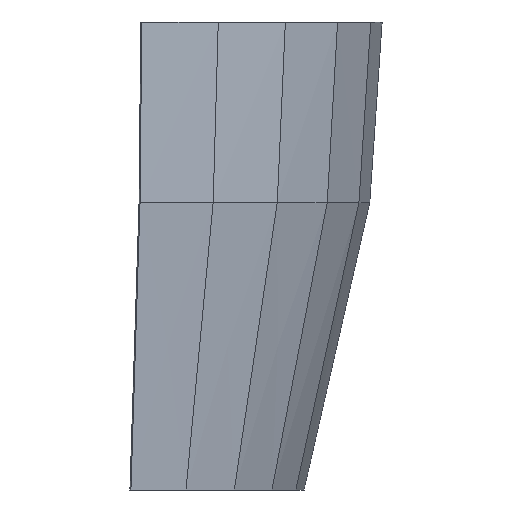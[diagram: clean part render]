
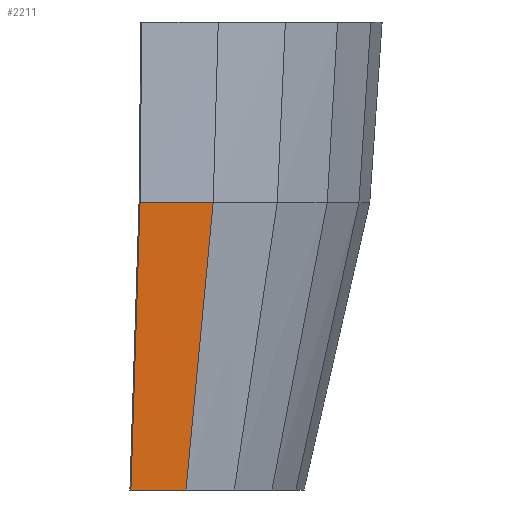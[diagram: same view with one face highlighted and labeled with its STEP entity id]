
A CAD part, left-side view. The second image highlights one B-rep face of the part: STEP entity #2211.
In plain terms, the highlighted free-form (B-spline) face has degree [1, 1] with [2, 2] control points.
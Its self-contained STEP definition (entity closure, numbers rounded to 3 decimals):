
#715 = VERTEX_POINT('',#716);
#716 = CARTESIAN_POINT('',(-89.764,-53.704,-265.));
#729 = B_SPLINE_SURFACE_WITH_KNOTS('',1,1,(
    (#730,#731)
    ,(#732,#733
    )),.UNSPECIFIED.,.F.,.F.,.F.,(2,2),(2,2),(0.,38.795),(0.,1.
    ),.PIECEWISE_BEZIER_KNOTS.);
#730 = CARTESIAN_POINT('',(-88.853,-56.182,-177.));
#731 = CARTESIAN_POINT('',(-89.764,-53.704,-265.));
#732 = CARTESIAN_POINT('',(-99.676,-18.928,-177.));
#733 = CARTESIAN_POINT('',(-100.667,-18.093,-265.));
#754 = B_SPLINE_SURFACE_WITH_KNOTS('',1,1,(
    (#755,#756)
    ,(#757,#758
    )),.UNSPECIFIED.,.F.,.F.,.F.,(2,2),(2,2),(0.,37.674),(0.,1.
    ),.PIECEWISE_BEZIER_KNOTS.);
#755 = CARTESIAN_POINT('',(-68.708,-84.945,-265.));
#756 = CARTESIAN_POINT('',(-58.11,-64.035,-405.));
#757 = CARTESIAN_POINT('',(-89.764,-53.704,-265.));
#758 = CARTESIAN_POINT('',(-77.014,-40.484,-405.));
#794 = VERTEX_POINT('',#795);
#795 = CARTESIAN_POINT('',(-100.667,-18.093,-265.));
#820 = EDGE_CURVE('',#715,#794,#821,.T.);
#821 = SURFACE_CURVE('',#822,(#826,#832),.PCURVE_S1.);
#822 = LINE('',#823,#824);
#823 = CARTESIAN_POINT('',(-89.764,-53.704,-265.));
#824 = VECTOR('',#825,1.);
#825 = DIRECTION('',(-0.293,0.956,0.));
#826 = PCURVE('',#729,#827);
#827 = DEFINITIONAL_REPRESENTATION('',(#828),#831);
#828 = B_SPLINE_CURVE_WITH_KNOTS('',1,(#829,#830),.UNSPECIFIED.,.F.,.F.,
  (2,2),(0.,37.243),.PIECEWISE_BEZIER_KNOTS.);
#829 = CARTESIAN_POINT('',(0.,1.));
#830 = CARTESIAN_POINT('',(38.795,1.));
#831 = ( GEOMETRIC_REPRESENTATION_CONTEXT(2) 
PARAMETRIC_REPRESENTATION_CONTEXT() REPRESENTATION_CONTEXT('2D SPACE',''
  ) );
#832 = PCURVE('',#833,#838);
#833 = B_SPLINE_SURFACE_WITH_KNOTS('',1,1,(
    (#834,#835)
    ,(#836,#837
    )),.UNSPECIFIED.,.F.,.F.,.F.,(2,2),(2,2),(0.,37.243),(0.,1.
    ),.PIECEWISE_BEZIER_KNOTS.);
#834 = CARTESIAN_POINT('',(-89.764,-53.704,-265.));
#835 = CARTESIAN_POINT('',(-77.014,-40.484,-405.));
#836 = CARTESIAN_POINT('',(-100.667,-18.093,-265.));
#837 = CARTESIAN_POINT('',(-86.803,-13.639,-405.));
#838 = DEFINITIONAL_REPRESENTATION('',(#839),#843);
#839 = LINE('',#840,#841);
#840 = CARTESIAN_POINT('',(0.,0.));
#841 = VECTOR('',#842,1.);
#842 = DIRECTION('',(1.,0.));
#843 = ( GEOMETRIC_REPRESENTATION_CONTEXT(2) 
PARAMETRIC_REPRESENTATION_CONTEXT() REPRESENTATION_CONTEXT('2D SPACE',''
  ) );
#913 = B_SPLINE_SURFACE_WITH_KNOTS('',1,1,(
    (#914,#915)
    ,(#916,#917
  )),.UNSPECIFIED.,.F.,.F.,.F.,(2,2),(2,2),(0.,3.5),(0.,1.),
  .PIECEWISE_BEZIER_KNOTS.);
#914 = CARTESIAN_POINT('',(-100.667,-18.093,-265.));
#915 = CARTESIAN_POINT('',(-86.803,-13.639,-405.));
#916 = CARTESIAN_POINT('',(-97.201,-17.605,-265.));
#917 = CARTESIAN_POINT('',(-83.337,-13.152,-405.));
#1804 = PLANE('',#1805);
#1805 = AXIS2_PLACEMENT_3D('',#1806,#1807,#1808);
#1806 = CARTESIAN_POINT('',(156.803,-13.639,-405.));
#1807 = DIRECTION('',(0.,0.,1.));
#1808 = DIRECTION('',(-1.,0.,0.));
#2169 = EDGE_CURVE('',#715,#2170,#2172,.T.);
#2170 = VERTEX_POINT('',#2171);
#2171 = CARTESIAN_POINT('',(-77.014,-40.484,-405.));
#2172 = SURFACE_CURVE('',#2173,(#2176,#2183),.PCURVE_S1.);
#2173 = B_SPLINE_CURVE_WITH_KNOTS('',1,(#2174,#2175),.UNSPECIFIED.,.F.,
  .F.,(2,2),(0.,1.),.PIECEWISE_BEZIER_KNOTS.);
#2174 = CARTESIAN_POINT('',(-89.764,-53.704,-265.));
#2175 = CARTESIAN_POINT('',(-77.014,-40.484,-405.));
#2176 = PCURVE('',#754,#2177);
#2177 = DEFINITIONAL_REPRESENTATION('',(#2178),#2182);
#2178 = LINE('',#2179,#2180);
#2179 = CARTESIAN_POINT('',(37.674,0.));
#2180 = VECTOR('',#2181,1.);
#2181 = DIRECTION('',(0.,1.));
#2182 = ( GEOMETRIC_REPRESENTATION_CONTEXT(2) 
PARAMETRIC_REPRESENTATION_CONTEXT() REPRESENTATION_CONTEXT('2D SPACE',''
  ) );
#2183 = PCURVE('',#833,#2184);
#2184 = DEFINITIONAL_REPRESENTATION('',(#2185),#2189);
#2185 = LINE('',#2186,#2187);
#2186 = CARTESIAN_POINT('',(0.,0.));
#2187 = VECTOR('',#2188,1.);
#2188 = DIRECTION('',(0.,1.));
#2189 = ( GEOMETRIC_REPRESENTATION_CONTEXT(2) 
PARAMETRIC_REPRESENTATION_CONTEXT() REPRESENTATION_CONTEXT('2D SPACE',''
  ) );
#2211 = ADVANCED_FACE('',(#2212),#833,.T.);
#2212 = FACE_BOUND('',#2213,.T.);
#2213 = EDGE_LOOP('',(#2214,#2215,#2237,#2257));
#2214 = ORIENTED_EDGE('',*,*,#820,.T.);
#2215 = ORIENTED_EDGE('',*,*,#2216,.T.);
#2216 = EDGE_CURVE('',#794,#2217,#2219,.T.);
#2217 = VERTEX_POINT('',#2218);
#2218 = CARTESIAN_POINT('',(-86.803,-13.639,-405.));
#2219 = SURFACE_CURVE('',#2220,(#2223,#2230),.PCURVE_S1.);
#2220 = B_SPLINE_CURVE_WITH_KNOTS('',1,(#2221,#2222),.UNSPECIFIED.,.F.,
  .F.,(2,2),(0.,1.),.PIECEWISE_BEZIER_KNOTS.);
#2221 = CARTESIAN_POINT('',(-100.667,-18.093,-265.));
#2222 = CARTESIAN_POINT('',(-86.803,-13.639,-405.));
#2223 = PCURVE('',#833,#2224);
#2224 = DEFINITIONAL_REPRESENTATION('',(#2225),#2229);
#2225 = LINE('',#2226,#2227);
#2226 = CARTESIAN_POINT('',(37.243,0.));
#2227 = VECTOR('',#2228,1.);
#2228 = DIRECTION('',(0.,1.));
#2229 = ( GEOMETRIC_REPRESENTATION_CONTEXT(2) 
PARAMETRIC_REPRESENTATION_CONTEXT() REPRESENTATION_CONTEXT('2D SPACE',''
  ) );
#2230 = PCURVE('',#913,#2231);
#2231 = DEFINITIONAL_REPRESENTATION('',(#2232),#2236);
#2232 = LINE('',#2233,#2234);
#2233 = CARTESIAN_POINT('',(0.,0.));
#2234 = VECTOR('',#2235,1.);
#2235 = DIRECTION('',(0.,1.));
#2236 = ( GEOMETRIC_REPRESENTATION_CONTEXT(2) 
PARAMETRIC_REPRESENTATION_CONTEXT() REPRESENTATION_CONTEXT('2D SPACE',''
  ) );
#2237 = ORIENTED_EDGE('',*,*,#2238,.F.);
#2238 = EDGE_CURVE('',#2170,#2217,#2239,.T.);
#2239 = SURFACE_CURVE('',#2240,(#2244,#2250),.PCURVE_S1.);
#2240 = LINE('',#2241,#2242);
#2241 = CARTESIAN_POINT('',(-77.014,-40.484,-405.));
#2242 = VECTOR('',#2243,1.);
#2243 = DIRECTION('',(-0.343,0.939,0.));
#2244 = PCURVE('',#833,#2245);
#2245 = DEFINITIONAL_REPRESENTATION('',(#2246),#2249);
#2246 = B_SPLINE_CURVE_WITH_KNOTS('',1,(#2247,#2248),.UNSPECIFIED.,.F.,
  .F.,(2,2),(0.,28.574),.PIECEWISE_BEZIER_KNOTS.);
#2247 = CARTESIAN_POINT('',(0.,1.));
#2248 = CARTESIAN_POINT('',(37.243,1.));
#2249 = ( GEOMETRIC_REPRESENTATION_CONTEXT(2) 
PARAMETRIC_REPRESENTATION_CONTEXT() REPRESENTATION_CONTEXT('2D SPACE',''
  ) );
#2250 = PCURVE('',#1804,#2251);
#2251 = DEFINITIONAL_REPRESENTATION('',(#2252),#2256);
#2252 = LINE('',#2253,#2254);
#2253 = CARTESIAN_POINT('',(233.817,26.845));
#2254 = VECTOR('',#2255,1.);
#2255 = DIRECTION('',(0.343,-0.939));
#2256 = ( GEOMETRIC_REPRESENTATION_CONTEXT(2) 
PARAMETRIC_REPRESENTATION_CONTEXT() REPRESENTATION_CONTEXT('2D SPACE',''
  ) );
#2257 = ORIENTED_EDGE('',*,*,#2169,.F.);
